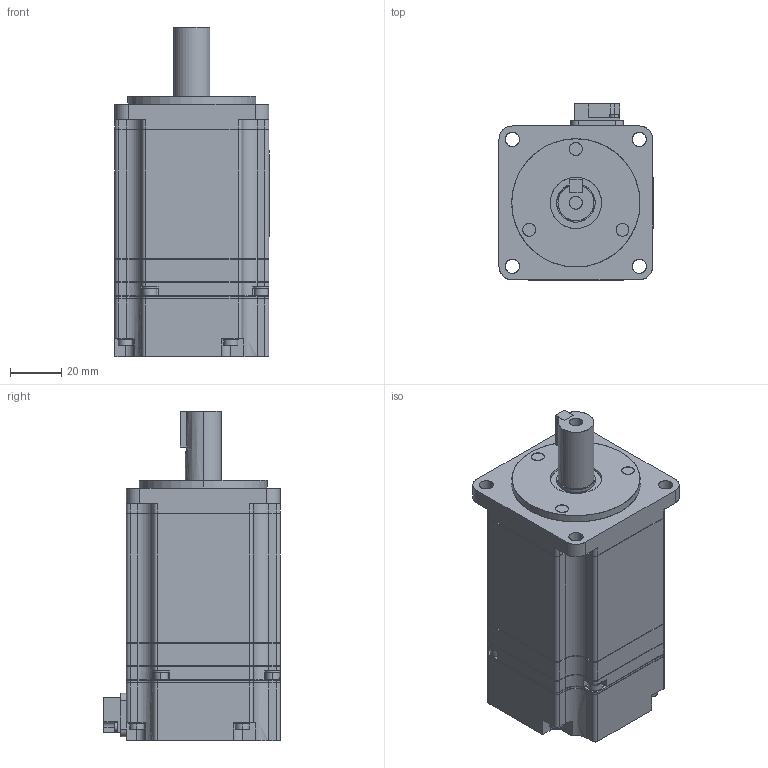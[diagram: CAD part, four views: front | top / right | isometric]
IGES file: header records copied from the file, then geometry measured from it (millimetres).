
Start section: SolidWorks IGES file using analytic representation for surfaces
Global section: file name: C:\YASKAWA\sgmav_04a_a61.IGS; native system: SolidWorks 2006 by SolidWorks Corporation; preprocessor: SolidWorks 2006 by SolidWorks Corporation; author: yamanouchi; date: 080610.210054; units: millimetre
Bounding box: 60.1 x 68.8 x 128.6 mm (x, y, z)
Surface area: 35818.2 mm2 (no closed solid volume)
Topology: 0 solids, 0 shells, 495 faces, 6663 edges, 6663 vertices
Faces by surface type: bspline 275, revolution 220
